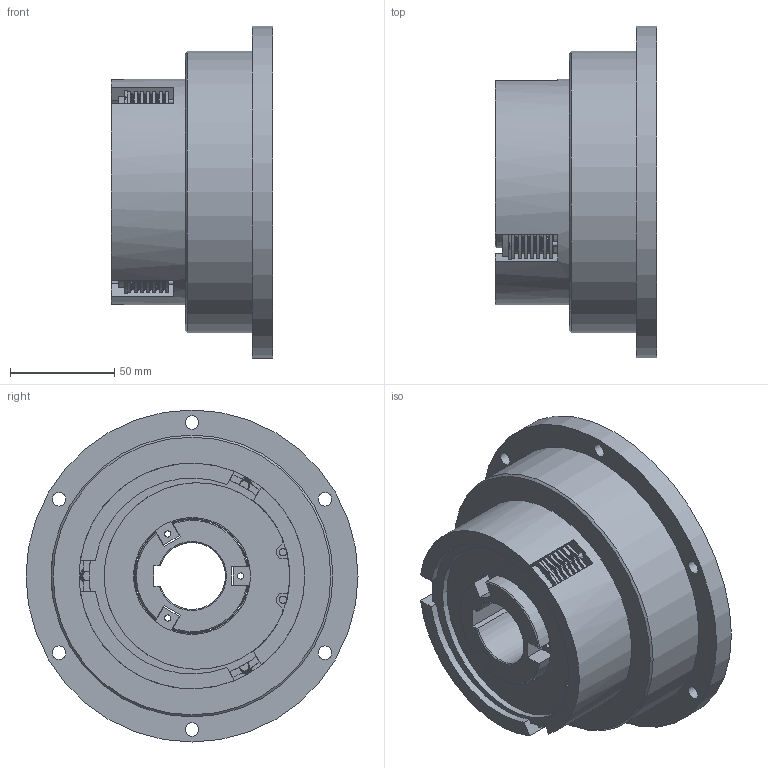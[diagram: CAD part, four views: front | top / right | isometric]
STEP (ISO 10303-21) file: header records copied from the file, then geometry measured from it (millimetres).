
FILE_DESCRIPTION(/* description */ (''),/* implementation_level */ '2;1');
FILE_NAME(/* name */ 'X:\INVENTOR\DISEGNI\03_Friz_Oleod_Pneum_Cil_Stat\03_40 FPL-N\03_40_003_01 FPL_N03\C\03_40_003_02 FPL-N03C@STEP.stp',/* time_stamp */ '2019-04-16T11:02:08+02:00',/* author */ ('stefano'),/* organization */ (''),/* preprocessor_version */ 'ST-DEVELOPER v17',/* originating_system */ 'Autodesk Inventor 2018',/* authorisation */ '');
FILE_SCHEMA (('AUTOMOTIVE_DESIGN { 1 0 10303 214 3 1 1 }'));
Products named in the file (1): 03_40_003_02 FPL-N03C_Substitute_1
Bounding box: 77.5 x 159 x 159 mm (x, y, z)
Volume: 769113.7 mm3; surface area: 175990.7 mm2
Topology: 8 solids, 8 shells, 715 faces, 1988 edges, 1340 vertices
Faces by surface type: plane 345, cylinder 193, bspline 135, cone 33, torus 9
Full cylindrical faces by diameter (mm): 2 x3, 2.75 x24, 3 x18, 3.5 x5, 6.5 x6, 8.566 x1, 10 x15, 10.5 x6, 56 x8, 57 x1, 58 x1, 90 x8, 93.8 x1, 108 x1, 115 x2, 135 x1, 159 x1
Entity records: 42714 total; most frequent: CARTESIAN_POINT 23674, ORIENTED_EDGE 3956, DIRECTION 3807, EDGE_CURVE 1978, AXIS2_PLACEMENT_3D 1513, VERTEX_POINT 1340, CIRCLE 929, EDGE_LOOP 906
